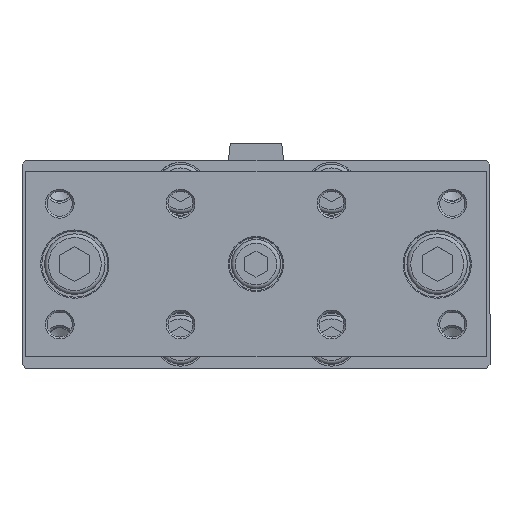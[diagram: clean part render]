
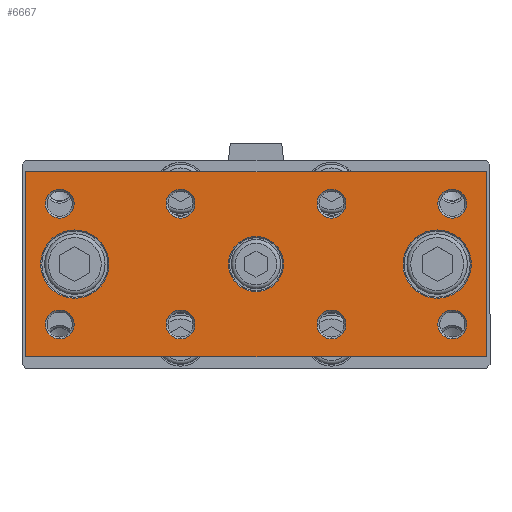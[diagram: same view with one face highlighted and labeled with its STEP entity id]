
A CAD part, top view. The second image highlights one B-rep face of the part: STEP entity #6667.
In plain terms, the highlighted planar face has unit normal (0, 0, 1).
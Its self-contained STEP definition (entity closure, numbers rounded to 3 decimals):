
#6503=CARTESIAN_POINT('',(-38.352,1.555,128.5));
#6504=VERTEX_POINT('',#6503);
#6505=CARTESIAN_POINT('',(-47.402,1.555,128.5));
#6506=DIRECTION('',(0.0,0.0,1.0));
#6507=DIRECTION('',(-1.0,0.0,0.0));
#6508=AXIS2_PLACEMENT_3D('',#6505,#6506,#6507);
#6509=CIRCLE('',#6508,9.05);
#6510=EDGE_CURVE('',#6504,#6504,#6509,.T.);
#6515=CARTESIAN_POINT('',(0.598,5.555,128.5));
#6516=DIRECTION('',(0.0,0.0,1.0));
#6517=DIRECTION('',(1.0,0.0,0.0));
#6518=AXIS2_PLACEMENT_3D('',#6515,#6516,#6517);
#6519=PLANE('',#6518);
#6520=CARTESIAN_POINT('',(61.598,26.055,128.5));
#6521=VERTEX_POINT('',#6520);
#6522=CARTESIAN_POINT('',(61.598,-22.945,128.5));
#6523=VERTEX_POINT('',#6522);
#6524=CARTESIAN_POINT('',(61.598,26.055,128.5));
#6525=DIRECTION('',(0.0,-1.0,0.0));
#6526=VECTOR('',#6525,49.);
#6527=LINE('',#6524,#6526);
#6528=EDGE_CURVE('',#6521,#6523,#6527,.T.);
#6529=ORIENTED_EDGE('',*,*,#6528,.F.);
#6530=CARTESIAN_POINT('',(-60.402,26.055,128.5));
#6531=VERTEX_POINT('',#6530);
#6532=CARTESIAN_POINT('',(-60.402,26.055,128.5));
#6533=DIRECTION('',(1.0,0.0,0.0));
#6534=VECTOR('',#6533,122.0);
#6535=LINE('',#6532,#6534);
#6536=EDGE_CURVE('',#6531,#6521,#6535,.T.);
#6537=ORIENTED_EDGE('',*,*,#6536,.F.);
#6538=CARTESIAN_POINT('',(-60.402,-22.945,128.5));
#6539=VERTEX_POINT('',#6538);
#6540=CARTESIAN_POINT('',(-60.402,-22.945,128.5));
#6541=DIRECTION('',(0.0,1.0,0.0));
#6542=VECTOR('',#6541,49.);
#6543=LINE('',#6540,#6542);
#6544=EDGE_CURVE('',#6539,#6531,#6543,.T.);
#6545=ORIENTED_EDGE('',*,*,#6544,.F.);
#6546=CARTESIAN_POINT('',(61.598,-22.945,128.5));
#6547=DIRECTION('',(-1.0,0.0,0.0));
#6548=VECTOR('',#6547,122.);
#6549=LINE('',#6546,#6548);
#6550=EDGE_CURVE('',#6523,#6539,#6549,.T.);
#6551=ORIENTED_EDGE('',*,*,#6550,.F.);
#6552=EDGE_LOOP('',(#6529,#6537,#6545,#6551));
#6553=FACE_OUTER_BOUND('',#6552,.T.);
#6554=CARTESIAN_POINT('',(7.898,1.555,128.5));
#6555=VERTEX_POINT('',#6554);
#6556=CARTESIAN_POINT('',(0.598,1.555,128.5));
#6557=DIRECTION('',(0.0,0.0,1.0));
#6558=DIRECTION('',(-1.0,0.0,0.0));
#6559=AXIS2_PLACEMENT_3D('',#6556,#6557,#6558);
#6560=CIRCLE('',#6559,7.3);
#6561=EDGE_CURVE('',#6555,#6555,#6560,.T.);
#6562=ORIENTED_EDGE('',*,*,#6561,.F.);
#6563=EDGE_LOOP('',(#6562));
#6564=FACE_BOUND('',#6563,.T.);
#6565=CARTESIAN_POINT('',(24.422,-14.445,128.5));
#6566=VERTEX_POINT('',#6565);
#6567=CARTESIAN_POINT('',(20.598,-14.445,128.5));
#6568=DIRECTION('',(0.0,0.0,1.0));
#6569=DIRECTION('',(-1.0,0.0,0.0));
#6570=AXIS2_PLACEMENT_3D('',#6567,#6568,#6569);
#6571=CIRCLE('',#6570,3.824);
#6572=EDGE_CURVE('',#6566,#6566,#6571,.T.);
#6573=ORIENTED_EDGE('',*,*,#6572,.F.);
#6574=EDGE_LOOP('',(#6573));
#6575=FACE_BOUND('',#6574,.T.);
#6576=CARTESIAN_POINT('',(-47.578,-14.445,128.5));
#6577=VERTEX_POINT('',#6576);
#6578=CARTESIAN_POINT('',(-51.402,-14.445,128.5));
#6579=DIRECTION('',(0.0,0.0,1.0));
#6580=DIRECTION('',(-1.0,0.0,0.0));
#6581=AXIS2_PLACEMENT_3D('',#6578,#6579,#6580);
#6582=CIRCLE('',#6581,3.823);
#6583=EDGE_CURVE('',#6577,#6577,#6582,.T.);
#6584=ORIENTED_EDGE('',*,*,#6583,.F.);
#6585=EDGE_LOOP('',(#6584));
#6586=FACE_BOUND('',#6585,.T.);
#6587=CARTESIAN_POINT('',(56.422,17.555,128.5));
#6588=VERTEX_POINT('',#6587);
#6589=CARTESIAN_POINT('',(52.598,17.555,128.5));
#6590=DIRECTION('',(0.0,0.0,1.0));
#6591=DIRECTION('',(-1.0,0.0,0.0));
#6592=AXIS2_PLACEMENT_3D('',#6589,#6590,#6591);
#6593=CIRCLE('',#6592,3.823);
#6594=EDGE_CURVE('',#6588,#6588,#6593,.T.);
#6595=ORIENTED_EDGE('',*,*,#6594,.F.);
#6596=EDGE_LOOP('',(#6595));
#6597=FACE_BOUND('',#6596,.T.);
#6598=CARTESIAN_POINT('',(56.422,-14.445,128.5));
#6599=VERTEX_POINT('',#6598);
#6600=CARTESIAN_POINT('',(52.598,-14.445,128.5));
#6601=DIRECTION('',(0.0,0.0,1.0));
#6602=DIRECTION('',(-1.0,0.0,0.0));
#6603=AXIS2_PLACEMENT_3D('',#6600,#6601,#6602);
#6604=CIRCLE('',#6603,3.823);
#6605=EDGE_CURVE('',#6599,#6599,#6604,.T.);
#6606=ORIENTED_EDGE('',*,*,#6605,.F.);
#6607=EDGE_LOOP('',(#6606));
#6608=FACE_BOUND('',#6607,.T.);
#6609=CARTESIAN_POINT('',(-47.578,17.555,128.5));
#6610=VERTEX_POINT('',#6609);
#6611=CARTESIAN_POINT('',(-51.402,17.555,128.5));
#6612=DIRECTION('',(0.0,0.0,1.0));
#6613=DIRECTION('',(-1.0,0.0,0.0));
#6614=AXIS2_PLACEMENT_3D('',#6611,#6612,#6613);
#6615=CIRCLE('',#6614,3.823);
#6616=EDGE_CURVE('',#6610,#6610,#6615,.T.);
#6617=ORIENTED_EDGE('',*,*,#6616,.F.);
#6618=EDGE_LOOP('',(#6617));
#6619=FACE_BOUND('',#6618,.T.);
#6620=CARTESIAN_POINT('',(-15.578,17.555,128.5));
#6621=VERTEX_POINT('',#6620);
#6622=CARTESIAN_POINT('',(-19.402,17.555,128.5));
#6623=DIRECTION('',(0.0,0.0,1.0));
#6624=DIRECTION('',(-1.0,0.0,0.0));
#6625=AXIS2_PLACEMENT_3D('',#6622,#6623,#6624);
#6626=CIRCLE('',#6625,3.823);
#6627=EDGE_CURVE('',#6621,#6621,#6626,.T.);
#6628=ORIENTED_EDGE('',*,*,#6627,.F.);
#6629=EDGE_LOOP('',(#6628));
#6630=FACE_BOUND('',#6629,.T.);
#6631=CARTESIAN_POINT('',(24.422,17.555,128.5));
#6632=VERTEX_POINT('',#6631);
#6633=CARTESIAN_POINT('',(20.598,17.555,128.5));
#6634=DIRECTION('',(0.0,0.0,1.0));
#6635=DIRECTION('',(-1.0,0.0,0.0));
#6636=AXIS2_PLACEMENT_3D('',#6633,#6634,#6635);
#6637=CIRCLE('',#6636,3.824);
#6638=EDGE_CURVE('',#6632,#6632,#6637,.T.);
#6639=ORIENTED_EDGE('',*,*,#6638,.F.);
#6640=EDGE_LOOP('',(#6639));
#6641=FACE_BOUND('',#6640,.T.);
#6642=CARTESIAN_POINT('',(-15.578,-14.445,128.5));
#6643=VERTEX_POINT('',#6642);
#6644=CARTESIAN_POINT('',(-19.402,-14.445,128.5));
#6645=DIRECTION('',(0.0,0.0,1.0));
#6646=DIRECTION('',(-1.0,0.0,0.0));
#6647=AXIS2_PLACEMENT_3D('',#6644,#6645,#6646);
#6648=CIRCLE('',#6647,3.823);
#6649=EDGE_CURVE('',#6643,#6643,#6648,.T.);
#6650=ORIENTED_EDGE('',*,*,#6649,.F.);
#6651=EDGE_LOOP('',(#6650));
#6652=FACE_BOUND('',#6651,.T.);
#6653=CARTESIAN_POINT('',(57.648,1.555,128.5));
#6654=VERTEX_POINT('',#6653);
#6655=CARTESIAN_POINT('',(48.598,1.555,128.5));
#6656=DIRECTION('',(0.0,0.0,1.0));
#6657=DIRECTION('',(-1.0,0.0,0.0));
#6658=AXIS2_PLACEMENT_3D('',#6655,#6656,#6657);
#6659=CIRCLE('',#6658,9.05);
#6660=EDGE_CURVE('',#6654,#6654,#6659,.T.);
#6661=ORIENTED_EDGE('',*,*,#6660,.F.);
#6662=EDGE_LOOP('',(#6661));
#6663=FACE_BOUND('',#6662,.T.);
#6664=ORIENTED_EDGE('',*,*,#6510,.F.);
#6665=EDGE_LOOP('',(#6664));
#6666=FACE_BOUND('',#6665,.T.);
#6667=ADVANCED_FACE('',(#6553,#6564,#6575,#6586,#6597,#6608,#6619,#6630,#6641,#6652,#6663,#6666),#6519,.T.);
